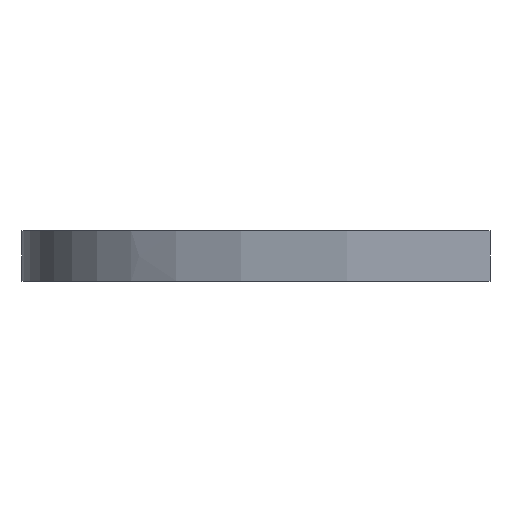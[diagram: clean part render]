
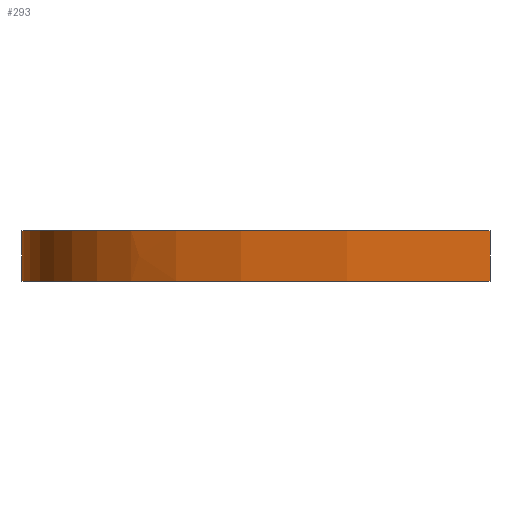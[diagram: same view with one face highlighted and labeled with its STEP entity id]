
A CAD part, front view. The second image highlights one B-rep face of the part: STEP entity #293.
In plain terms, the highlighted face is a extrusion surface.
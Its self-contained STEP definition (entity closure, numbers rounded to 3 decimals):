
#72 = PLANE('',#73);
#73 = AXIS2_PLACEMENT_3D('',#74,#75,#76);
#74 = CARTESIAN_POINT('',(-85.664,-109.279,15.));
#75 = DIRECTION('',(0.,0.,1.));
#76 = DIRECTION('',(1.,0.,0.));
#126 = PLANE('',#127);
#127 = AXIS2_PLACEMENT_3D('',#128,#129,#130);
#128 = CARTESIAN_POINT('',(-85.664,-109.279,0.));
#129 = DIRECTION('',(0.,0.,1.));
#130 = DIRECTION('',(1.,0.,0.));
#181 = SURFACE_OF_LINEAR_EXTRUSION('',#182,#186);
#182 = B_SPLINE_CURVE_WITH_KNOTS('',2,(#183,#184,#185),.UNSPECIFIED.,.F.
  ,.F.,(3,3),(0.,1.),.PIECEWISE_BEZIER_KNOTS.);
#183 = CARTESIAN_POINT('',(-15.,-293.8,0.));
#184 = CARTESIAN_POINT('',(-57.,-293.8,0.));
#185 = CARTESIAN_POINT('',(-57.,-172.999,0.));
#186 = VECTOR('',#187,1.);
#187 = DIRECTION('',(-0.,-0.,-1.));
#219 = EDGE_CURVE('',#220,#222,#224,.T.);
#220 = VERTEX_POINT('',#221);
#221 = CARTESIAN_POINT('',(-15.,-293.8,0.));
#222 = VERTEX_POINT('',#223);
#223 = CARTESIAN_POINT('',(-15.,-293.8,15.));
#224 = SURFACE_CURVE('',#225,(#229,#236),.PCURVE_S1.);
#225 = LINE('',#226,#227);
#226 = CARTESIAN_POINT('',(-15.,-293.8,0.));
#227 = VECTOR('',#228,1.);
#228 = DIRECTION('',(0.,0.,1.));
#229 = PCURVE('',#181,#230);
#230 = DEFINITIONAL_REPRESENTATION('',(#231),#235);
#231 = LINE('',#232,#233);
#232 = CARTESIAN_POINT('',(0.,0.));
#233 = VECTOR('',#234,1.);
#234 = DIRECTION('',(0.,-1.));
#235 = ( GEOMETRIC_REPRESENTATION_CONTEXT(2) 
PARAMETRIC_REPRESENTATION_CONTEXT() REPRESENTATION_CONTEXT('2D SPACE',''
  ) );
#236 = PCURVE('',#237,#244);
#237 = SURFACE_OF_LINEAR_EXTRUSION('',#238,#242);
#238 = B_SPLINE_CURVE_WITH_KNOTS('',2,(#239,#240,#241),.UNSPECIFIED.,.F.
  ,.F.,(3,3),(0.,1.),.PIECEWISE_BEZIER_KNOTS.);
#239 = CARTESIAN_POINT('',(-15.,-293.8,0.));
#240 = CARTESIAN_POINT('',(-155.,-293.8,0.));
#241 = CARTESIAN_POINT('',(-155.,-201.3,0.));
#242 = VECTOR('',#243,1.);
#243 = DIRECTION('',(-0.,-0.,-1.));
#244 = DEFINITIONAL_REPRESENTATION('',(#245),#249);
#245 = LINE('',#246,#247);
#246 = CARTESIAN_POINT('',(0.,0.));
#247 = VECTOR('',#248,1.);
#248 = DIRECTION('',(0.,-1.));
#249 = ( GEOMETRIC_REPRESENTATION_CONTEXT(2) 
PARAMETRIC_REPRESENTATION_CONTEXT() REPRESENTATION_CONTEXT('2D SPACE',''
  ) );
#293 = ADVANCED_FACE('',(#294),#237,.T.);
#294 = FACE_BOUND('',#295,.T.);
#295 = EDGE_LOOP('',(#296,#297,#320,#351));
#296 = ORIENTED_EDGE('',*,*,#219,.T.);
#297 = ORIENTED_EDGE('',*,*,#298,.T.);
#298 = EDGE_CURVE('',#222,#299,#301,.T.);
#299 = VERTEX_POINT('',#300);
#300 = CARTESIAN_POINT('',(-155.,-201.3,15.));
#301 = SURFACE_CURVE('',#302,(#306,#313),.PCURVE_S1.);
#302 = B_SPLINE_CURVE_WITH_KNOTS('',2,(#303,#304,#305),.UNSPECIFIED.,.F.
  ,.F.,(3,3),(0.,1.),.PIECEWISE_BEZIER_KNOTS.);
#303 = CARTESIAN_POINT('',(-15.,-293.8,15.));
#304 = CARTESIAN_POINT('',(-155.,-293.8,15.));
#305 = CARTESIAN_POINT('',(-155.,-201.3,15.));
#306 = PCURVE('',#237,#307);
#307 = DEFINITIONAL_REPRESENTATION('',(#308),#312);
#308 = LINE('',#309,#310);
#309 = CARTESIAN_POINT('',(0.,-15.));
#310 = VECTOR('',#311,1.);
#311 = DIRECTION('',(1.,0.));
#312 = ( GEOMETRIC_REPRESENTATION_CONTEXT(2) 
PARAMETRIC_REPRESENTATION_CONTEXT() REPRESENTATION_CONTEXT('2D SPACE',''
  ) );
#313 = PCURVE('',#72,#314);
#314 = DEFINITIONAL_REPRESENTATION('',(#315),#319);
#315 = B_SPLINE_CURVE_WITH_KNOTS('',2,(#316,#317,#318),.UNSPECIFIED.,.F.
  ,.F.,(3,3),(0.,1.),.PIECEWISE_BEZIER_KNOTS.);
#316 = CARTESIAN_POINT('',(70.664,-184.521));
#317 = CARTESIAN_POINT('',(-69.336,-184.521));
#318 = CARTESIAN_POINT('',(-69.336,-92.021));
#319 = ( GEOMETRIC_REPRESENTATION_CONTEXT(2) 
PARAMETRIC_REPRESENTATION_CONTEXT() REPRESENTATION_CONTEXT('2D SPACE',''
  ) );
#320 = ORIENTED_EDGE('',*,*,#321,.F.);
#321 = EDGE_CURVE('',#322,#299,#324,.T.);
#322 = VERTEX_POINT('',#323);
#323 = CARTESIAN_POINT('',(-155.,-201.3,0.));
#324 = SURFACE_CURVE('',#325,(#329,#336),.PCURVE_S1.);
#325 = LINE('',#326,#327);
#326 = CARTESIAN_POINT('',(-155.,-201.3,0.));
#327 = VECTOR('',#328,1.);
#328 = DIRECTION('',(0.,0.,1.));
#329 = PCURVE('',#237,#330);
#330 = DEFINITIONAL_REPRESENTATION('',(#331),#335);
#331 = LINE('',#332,#333);
#332 = CARTESIAN_POINT('',(1.,0.));
#333 = VECTOR('',#334,1.);
#334 = DIRECTION('',(0.,-1.));
#335 = ( GEOMETRIC_REPRESENTATION_CONTEXT(2) 
PARAMETRIC_REPRESENTATION_CONTEXT() REPRESENTATION_CONTEXT('2D SPACE',''
  ) );
#336 = PCURVE('',#337,#345);
#337 = SURFACE_OF_LINEAR_EXTRUSION('',#338,#343);
#338 = B_SPLINE_CURVE_WITH_KNOTS('',3,(#339,#340,#341,#342),
  .UNSPECIFIED.,.F.,.F.,(4,4),(0.,1.),.PIECEWISE_BEZIER_KNOTS.);
#339 = CARTESIAN_POINT('',(-155.,-201.3,0.));
#340 = CARTESIAN_POINT('',(-155.,-108.8,0.));
#341 = CARTESIAN_POINT('',(-70.,-108.8,0.));
#342 = CARTESIAN_POINT('',(-140.,38.1,0.));
#343 = VECTOR('',#344,1.);
#344 = DIRECTION('',(-0.,-0.,-1.));
#345 = DEFINITIONAL_REPRESENTATION('',(#346),#350);
#346 = LINE('',#347,#348);
#347 = CARTESIAN_POINT('',(0.,0.));
#348 = VECTOR('',#349,1.);
#349 = DIRECTION('',(0.,-1.));
#350 = ( GEOMETRIC_REPRESENTATION_CONTEXT(2) 
PARAMETRIC_REPRESENTATION_CONTEXT() REPRESENTATION_CONTEXT('2D SPACE',''
  ) );
#351 = ORIENTED_EDGE('',*,*,#352,.F.);
#352 = EDGE_CURVE('',#220,#322,#353,.T.);
#353 = SURFACE_CURVE('',#354,(#358,#365),.PCURVE_S1.);
#354 = B_SPLINE_CURVE_WITH_KNOTS('',2,(#355,#356,#357),.UNSPECIFIED.,.F.
  ,.F.,(3,3),(0.,1.),.PIECEWISE_BEZIER_KNOTS.);
#355 = CARTESIAN_POINT('',(-15.,-293.8,0.));
#356 = CARTESIAN_POINT('',(-155.,-293.8,0.));
#357 = CARTESIAN_POINT('',(-155.,-201.3,0.));
#358 = PCURVE('',#237,#359);
#359 = DEFINITIONAL_REPRESENTATION('',(#360),#364);
#360 = LINE('',#361,#362);
#361 = CARTESIAN_POINT('',(0.,0.));
#362 = VECTOR('',#363,1.);
#363 = DIRECTION('',(1.,0.));
#364 = ( GEOMETRIC_REPRESENTATION_CONTEXT(2) 
PARAMETRIC_REPRESENTATION_CONTEXT() REPRESENTATION_CONTEXT('2D SPACE',''
  ) );
#365 = PCURVE('',#126,#366);
#366 = DEFINITIONAL_REPRESENTATION('',(#367),#371);
#367 = B_SPLINE_CURVE_WITH_KNOTS('',2,(#368,#369,#370),.UNSPECIFIED.,.F.
  ,.F.,(3,3),(0.,1.),.PIECEWISE_BEZIER_KNOTS.);
#368 = CARTESIAN_POINT('',(70.664,-184.521));
#369 = CARTESIAN_POINT('',(-69.336,-184.521));
#370 = CARTESIAN_POINT('',(-69.336,-92.021));
#371 = ( GEOMETRIC_REPRESENTATION_CONTEXT(2) 
PARAMETRIC_REPRESENTATION_CONTEXT() REPRESENTATION_CONTEXT('2D SPACE',''
  ) );
